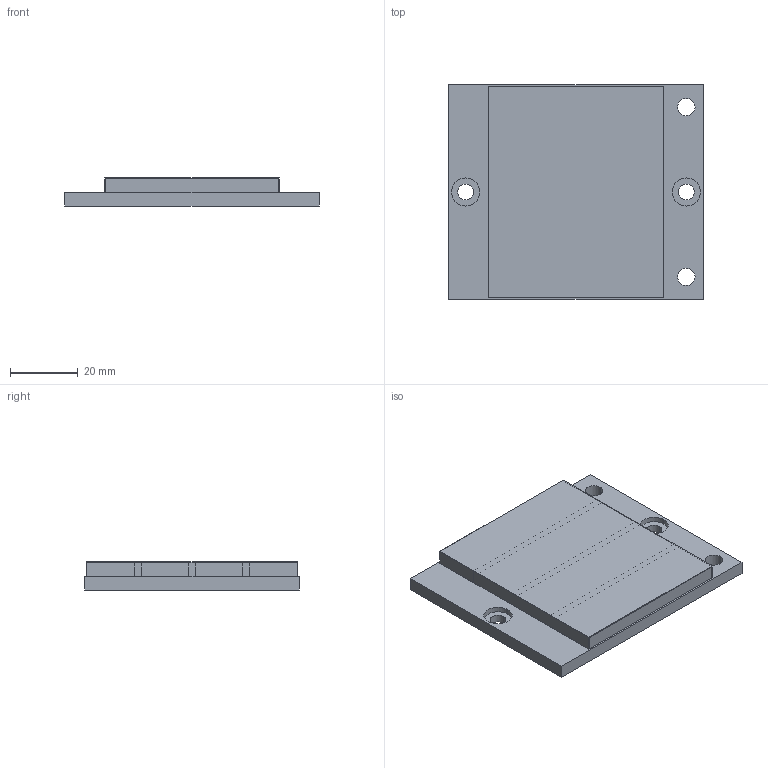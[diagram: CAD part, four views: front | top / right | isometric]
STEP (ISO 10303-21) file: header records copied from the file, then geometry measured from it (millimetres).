
FILE_DESCRIPTION((''),'2;1');
FILE_NAME('MCD050_064_001_','2007-01-13T',('Sendhil_kk'),('Kollmorgen'),'PRO/ENGINEER BY PARAMETRIC TECHNOLOGY CORPORATION, 2006080','PRO/ENGINEER BY PARAMETRIC TECHNOLOGY CORPORATION, 2006080','');
FILE_SCHEMA(('CONFIG_CONTROL_DESIGN'));
Length unit declared in the file: millimetre
Products named in the file (1): MCD050_064_001_
Bounding box: 75 x 63.3 x 8.25 mm (x, y, z)
Volume: 30732.6 mm3; surface area: 20202.2 mm2
Topology: 1 solids, 1 shells, 48 faces, 120 edges, 80 vertices
Faces by surface type: plane 36, cylinder 12
Entity records: 1486 total; most frequent: CARTESIAN_POINT 248, DIRECTION 240, ORIENTED_EDGE 240, EDGE_CURVE 120, VECTOR 96, LINE 96, VERTEX_POINT 80, AXIS2_PLACEMENT_3D 72
